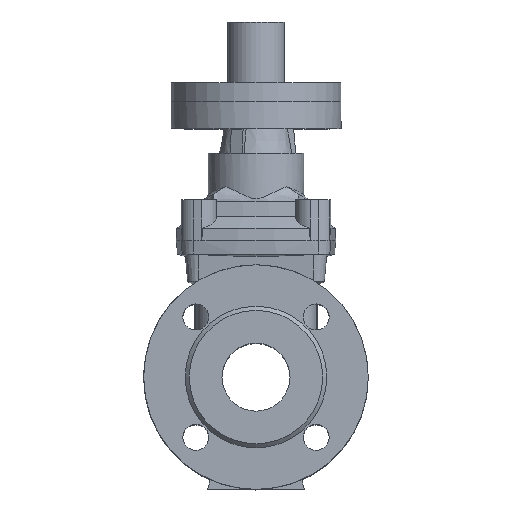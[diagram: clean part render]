
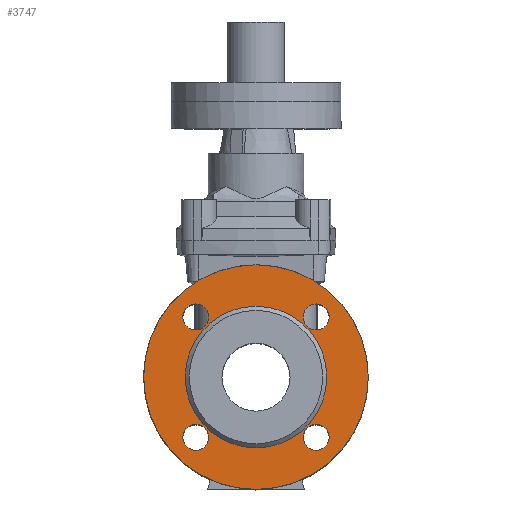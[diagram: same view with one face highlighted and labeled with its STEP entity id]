
A CAD part, top view. The second image highlights one B-rep face of the part: STEP entity #3747.
In plain terms, the highlighted planar face has unit normal (0, 0, 1).
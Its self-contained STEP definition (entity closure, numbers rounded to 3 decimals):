
#900 = CARTESIAN_POINT ( 'NONE',  ( 44.194, -44.194, 122. ) ) ;
#901 = DIRECTION ( 'NONE',  ( 0., 0., -1. ) ) ;
#902 = DIRECTION ( 'NONE',  ( 1., 0., 0. ) ) ;
#1589 = CIRCLE ( 'NONE', #3634, 82.5 ) ;
#1594 = CIRCLE ( 'NONE', #3637, 9.5 ) ;
#1599 = CIRCLE ( 'NONE', #3640, 52. ) ;
#1601 = CIRCLE ( 'NONE', #3642, 9.5 ) ;
#1631 = CIRCLE ( 'NONE', #3657, 9.5 ) ;
#1670 = FACE_BOUND ( 'NONE', #4914, .T. ) ;
#1672 = FACE_BOUND ( 'NONE', #4944, .T. ) ;
#1674 = FACE_OUTER_BOUND ( 'NONE', #4943, .T. ) ;
#1675 = FACE_BOUND ( 'NONE', #4907, .T. ) ;
#1676 = FACE_BOUND ( 'NONE', #4924, .T. ) ;
#1678 = FACE_BOUND ( 'NONE', #4925, .T. ) ;
#2211 = VERTEX_POINT ( 'NONE', #7847 ) ;
#2217 = VERTEX_POINT ( 'NONE', #7853 ) ;
#2220 = VERTEX_POINT ( 'NONE', #7856 ) ;
#2223 = VERTEX_POINT ( 'NONE', #7859 ) ;
#2225 = VERTEX_POINT ( 'NONE', #7861 ) ;
#2236 = VERTEX_POINT ( 'NONE', #7872 ) ;
#2416 = EDGE_CURVE ( 'NONE', #2211, #2211, #5571, .T. ) ;
#2433 = EDGE_CURVE ( 'NONE', #2217, #2217, #1589, .T. ) ;
#2437 = EDGE_CURVE ( 'NONE', #2220, #2220, #1594, .T. ) ;
#2443 = EDGE_CURVE ( 'NONE', #2223, #2223, #1599, .T. ) ;
#2445 = EDGE_CURVE ( 'NONE', #2225, #2225, #1601, .T. ) ;
#2471 = EDGE_CURVE ( 'NONE', #2236, #2236, #1631, .T. ) ;
#3042 = CARTESIAN_POINT ( 'NONE',  ( 0., 0., 122. ) ) ;
#3043 = DIRECTION ( 'NONE',  ( 0., 0., 1. ) ) ;
#3044 = DIRECTION ( 'NONE',  ( 1., 0., 0. ) ) ;
#3055 = CARTESIAN_POINT ( 'NONE',  ( -44.194, -44.194, 122. ) ) ;
#3056 = DIRECTION ( 'NONE',  ( 0., 0., 1. ) ) ;
#3057 = DIRECTION ( 'NONE',  ( -1., 0., 0. ) ) ;
#3072 = CARTESIAN_POINT ( 'NONE',  ( 0., 0., 122. ) ) ;
#3073 = DIRECTION ( 'NONE',  ( 0., 0., 1. ) ) ;
#3074 = DIRECTION ( 'NONE',  ( 1., 0., 0. ) ) ;
#3079 = CARTESIAN_POINT ( 'NONE',  ( 44.194, 44.194, 122. ) ) ;
#3080 = DIRECTION ( 'NONE',  ( 0., 0., -1. ) ) ;
#3081 = DIRECTION ( 'NONE',  ( 1., 0., 0. ) ) ;
#3151 = CARTESIAN_POINT ( 'NONE',  ( -44.194, 44.194, 122. ) ) ;
#3152 = DIRECTION ( 'NONE',  ( 0., 0., 1. ) ) ;
#3153 = DIRECTION ( 'NONE',  ( -1., 0., 0. ) ) ;
#3225 = DIRECTION ( 'NONE',  ( 0., 0., 1. ) ) ;
#3229 = PLANE ( 'NONE',  #3678 ) ;
#3230 = CARTESIAN_POINT ( 'NONE',  ( 0., 82.5, 122. ) ) ;
#3232 = DIRECTION ( 'NONE',  ( -1., 0., 0. ) ) ;
#3625 = AXIS2_PLACEMENT_3D ( 'NONE', #900, #901, #902 ) ;
#3634 = AXIS2_PLACEMENT_3D ( 'NONE', #3042, #3043, #3044 ) ;
#3637 = AXIS2_PLACEMENT_3D ( 'NONE', #3055, #3056, #3057 ) ;
#3640 = AXIS2_PLACEMENT_3D ( 'NONE', #3072, #3073, #3074 ) ;
#3642 = AXIS2_PLACEMENT_3D ( 'NONE', #3079, #3080, #3081 ) ;
#3657 = AXIS2_PLACEMENT_3D ( 'NONE', #3151, #3152, #3153 ) ;
#3678 = AXIS2_PLACEMENT_3D ( 'NONE', #3230, #3225, #3232 ) ;
#3747 = ADVANCED_FACE ( 'NONE', ( #1675, #1672, #1670, #1674, #1676, #1678 ), #3229, .T. ) ;
#4439 = ORIENTED_EDGE ( 'NONE', *, *, #2416, .T. ) ;
#4440 = ORIENTED_EDGE ( 'NONE', *, *, #2471, .F. ) ;
#4441 = ORIENTED_EDGE ( 'NONE', *, *, #2437, .F. ) ;
#4458 = ORIENTED_EDGE ( 'NONE', *, *, #2445, .T. ) ;
#4497 = ORIENTED_EDGE ( 'NONE', *, *, #2433, .T. ) ;
#4498 = ORIENTED_EDGE ( 'NONE', *, *, #2443, .F. ) ;
#4907 = EDGE_LOOP ( 'NONE', ( #4458 ) ) ;
#4914 = EDGE_LOOP ( 'NONE', ( #4498 ) ) ;
#4924 = EDGE_LOOP ( 'NONE', ( #4441 ) ) ;
#4925 = EDGE_LOOP ( 'NONE', ( #4439 ) ) ;
#4943 = EDGE_LOOP ( 'NONE', ( #4497 ) ) ;
#4944 = EDGE_LOOP ( 'NONE', ( #4440 ) ) ;
#5571 = CIRCLE ( 'NONE', #3625, 9.5 ) ;
#7847 = CARTESIAN_POINT ( 'NONE',  ( 53.694, -44.194, 122. ) ) ;
#7853 = CARTESIAN_POINT ( 'NONE',  ( 82.5, 0., 122. ) ) ;
#7856 = CARTESIAN_POINT ( 'NONE',  ( -53.694, -44.194, 122. ) ) ;
#7859 = CARTESIAN_POINT ( 'NONE',  ( 52., 0., 122. ) ) ;
#7861 = CARTESIAN_POINT ( 'NONE',  ( 53.694, 44.194, 122. ) ) ;
#7872 = CARTESIAN_POINT ( 'NONE',  ( -53.694, 44.194, 122. ) ) ;
